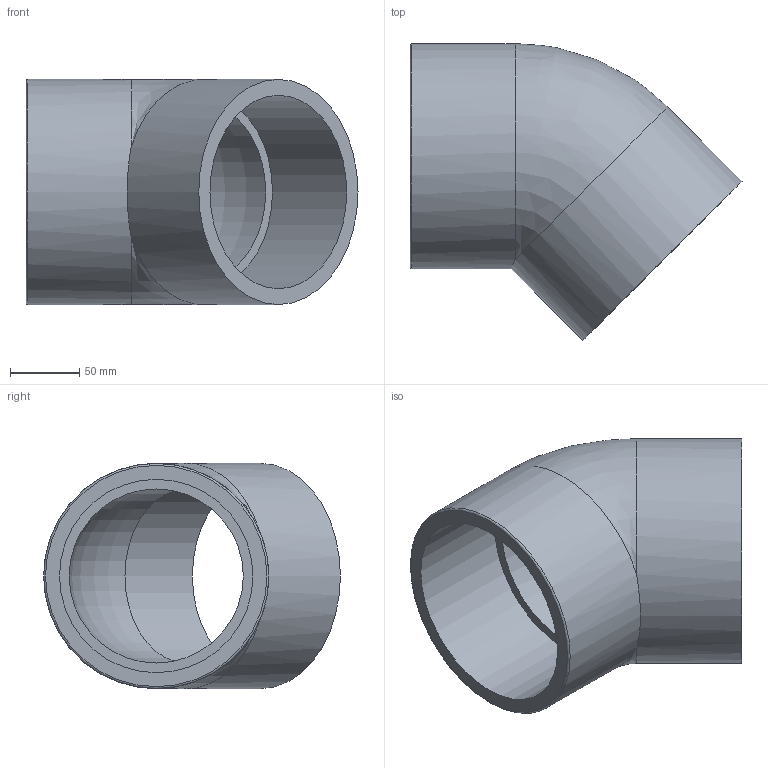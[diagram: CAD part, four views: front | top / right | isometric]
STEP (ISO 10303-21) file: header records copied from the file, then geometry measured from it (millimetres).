
FILE_DESCRIPTION(/* description */ ('PLASSON 45° ELBOW CEMENT PVC 140'),/* implementation_level */ '2;1');
FILE_NAME(/* name */ 'C:\Dropbox\KIMPROJECTS-Inventor\99-16-3568-Processing\PVC Catalog 2017\054500\054500140.ipt.stp',/* time_stamp */ '2017-12-07T16:03:54+02:00',/* author */ ('KIM'),/* organization */ (''),/* preprocessor_version */ 'ST-DEVELOPER v15.6',/* originating_system */ 'Autodesk Inventor 2015',/* authorisation */ '');
FILE_SCHEMA (('AUTOMOTIVE_DESIGN { 1 0 10303 214 3 1 1 }'));
Length unit declared in the file: millimetre
Products named in the file (1): 054500140
Bounding box: 240.29 x 214.79 x 163 mm (x, y, z)
Volume: 1334636.9 mm3; surface area: 214590.7 mm2
Topology: 1 solids, 1 shells, 11 faces, 22 edges, 13 vertices
Faces by surface type: cylinder 4, plane 4, torus 2, bspline 1
Full cylindrical faces by diameter (mm): 140 x2, 163 x2
Entity records: 280 total; most frequent: CARTESIAN_POINT 61, DIRECTION 46, ORIENTED_EDGE 24, AXIS2_PLACEMENT_3D 23, EDGE_LOOP 21, EDGE_CURVE 12, FACE_OUTER_BOUND 11, CIRCLE 11
